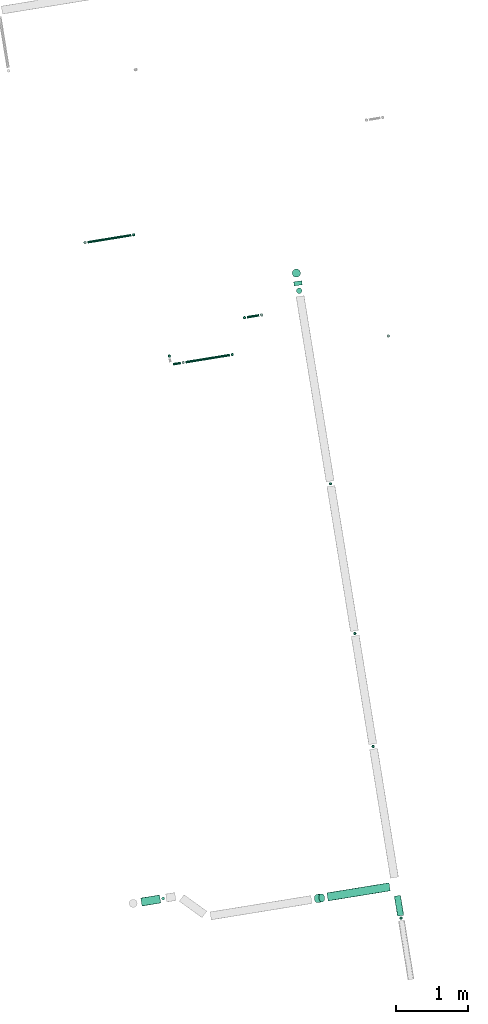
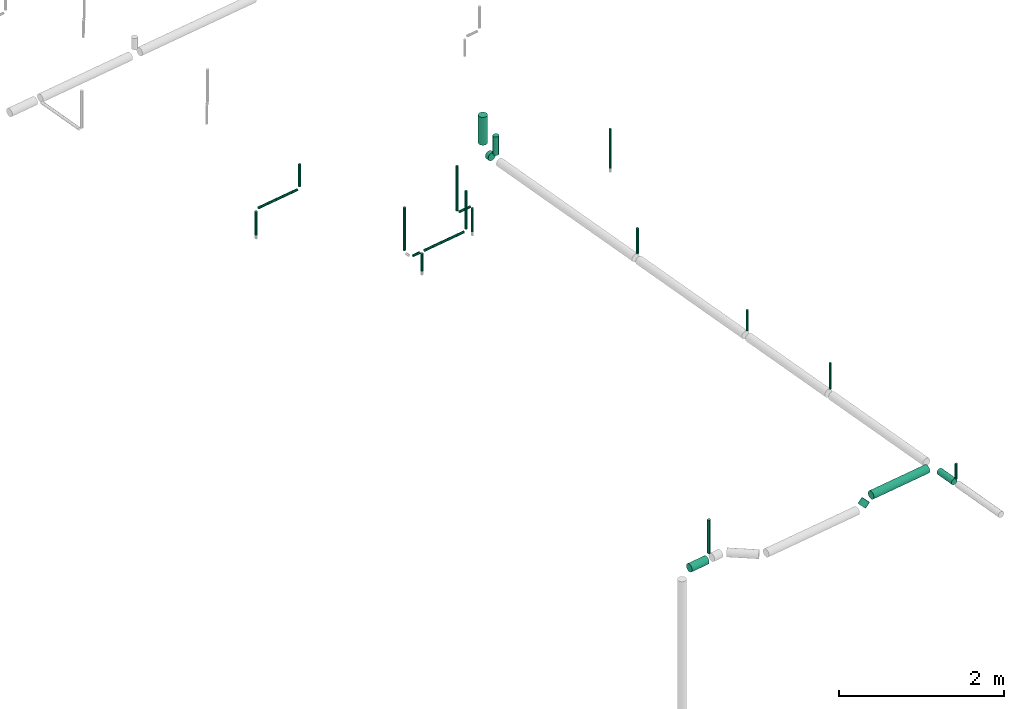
# One storey, part 2 of 8: 24 flow segments.
"""IFC2X3 building model written with IfcOpenShell, lengths in millimetres."""

from ifc_helpers import new_model, entity, si_unit, converted_unit, derived_unit, direction, frame, frame_2d, origin, origin_with_axes, origin_2d_with_axis, place, context, subcontext, project, spatial, circle, extrude, type_object, element, save


model = new_model("IFC2X3")

# Units and contexts
plan_context = context("Plan", 3, precision=1e-05, world=origin_with_axes())
model_context = context("Model", 3, precision=0.01, world=origin(), true_north=direction((6.12323399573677e-17, 1.0)))
body_context = subcontext(model_context, "Body", "Model", "MODEL_VIEW")
ifc_project = project(units=[converted_unit("PLANEANGLEUNIT", "DEGREE", entity("IfcPositiveLengthMeasure", 0.0174532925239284), si_unit("PLANEANGLEUNIT", "RADIAN"), dimensions=[0, 0, 0, 0, 0, 0, 0]), si_unit("AREAUNIT", "SQUARE_METRE"), si_unit("LENGTHUNIT", "METRE", prefix="MILLI"), si_unit("MASSUNIT", "GRAM", prefix="KILO"), si_unit("POWERUNIT", "WATT"), si_unit("PRESSUREUNIT", "PASCAL", prefix="KILO"), si_unit("FORCEUNIT", "NEWTON", prefix="KILO"), si_unit("ELECTRICVOLTAGEUNIT", "VOLT"), si_unit("ELECTRICCURRENTUNIT", "AMPERE"), si_unit("THERMODYNAMICTEMPERATUREUNIT", "DEGREE_CELSIUS"), si_unit("TIMEUNIT", "SECOND"), si_unit("VOLUMEUNIT", "CUBIC_METRE"), derived_unit("LINEARVELOCITYUNIT", [(si_unit("LENGTHUNIT", "METRE"), 1), (si_unit("TIMEUNIT", "SECOND"), -1)]), derived_unit("VOLUMETRICFLOWRATEUNIT", [(si_unit("VOLUMEUNIT", "CUBIC_METRE"), 1), (si_unit("TIMEUNIT", "SECOND"), -1)]), derived_unit("THERMALTRANSMITTANCEUNIT", [(si_unit("POWERUNIT", "WATT"), 1), (si_unit("THERMODYNAMICTEMPERATUREUNIT", "KELVIN"), -1), (si_unit("AREAUNIT", "SQUARE_METRE"), -1)]), derived_unit("SOUNDPRESSUREUNIT", [(si_unit("PRESSUREUNIT", "PASCAL"), 1)])], contexts=[model_context, plan_context])

# Site, building, storey
site_placement = place(None, frame((-0.00071070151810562, 0.00438415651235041, 0.0), z_axis=(0.0, 0.0, 1.0), x_axis=(-0.160236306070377, 0.987078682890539, 0.0)))
site = spatial("IfcSite", under=ifc_project, at=site_placement, Name="Default", CompositionType="ELEMENT")
building_placement = place(site_placement, origin_with_axes())
building = spatial("IfcBuilding", under=site, at=building_placement, CompositionType="ELEMENT")
storey_placement = place(building_placement, frame((0.0, 0.0, 58999.9999999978), z_axis=(0.0, 0.0, 1.0), x_axis=(1.0, 0.0, 0.0)))
storey = spatial("IfcBuildingStorey", under=building, at=storey_placement, Name="Nivå F", CompositionType="ELEMENT", Elevation=58999.9999999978)

# Flow segments
pipe_segment_type = type_object("IfcPipeSegmentType", Name="Pipe Types:Stålrør normaltykke", PredefinedType="NOTDEFINED")
flow_segment_1_placement = place(storey_placement, origin_with_axes())
element("IfcFlowSegment", 1, at=flow_segment_1_placement, inside=storey, type_object=pipe_segment_type, Name="Pipe Types:Stålrør normaltykke", ObjectType="Pipe Types:Stålrør normaltykke", context=body_context, shape_type="SweptSolid", body=[
    extrude(circle(Radius=16.8500004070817, at=origin_2d_with_axis()), frame((771988.479652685, -503050.695967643, 2403.04800000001)), (0.0, 0.0, 1.0), 258.254849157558),
])
flow_segment_2_placement = place(storey_placement, origin_with_axes())
element("IfcFlowSegment", 2, at=flow_segment_2_placement, inside=storey, type_object=pipe_segment_type, Name="Pipe Types:Stålrør normaltykke", ObjectType="Pipe Types:Stålrør normaltykke", context=body_context, shape_type="SweptSolid", body=[
    extrude(circle(Radius=16.8500004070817, at=origin_2d_with_axis()), frame((771897.619644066, -505913.480498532, 2703.04800000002)), (0.0, 0.0, 1.0), 576.151999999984),
])
flow_segment_3_placement = place(storey_placement, origin_with_axes())
element("IfcFlowSegment", 3, at=flow_segment_3_placement, inside=storey, type_object=pipe_segment_type, Name="Pipe Types:Stålrør normaltykke", ObjectType="Pipe Types:Stålrør normaltykke", context=body_context, shape_type="SweptSolid", body=[
    extrude(circle(Radius=57.1500016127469, at=origin_2d_with_axis()), frame((764364.119459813, -504709.248673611, 2880.0), z_axis=(0.0, 1.0, 0.0), x_axis=(-1.0, 0.0, 0.0)), (0.0, 0.0, 1.0), 872.61396846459),
])
flow_segment_4_placement = place(storey_placement, origin_with_axes())
element("IfcFlowSegment", 4, at=flow_segment_4_placement, inside=storey, type_object=pipe_segment_type, Name="Pipe Types:Stålrør normaltykke", ObjectType="Pipe Types:Stålrør normaltykke", context=body_context, shape_type="SweptSolid", body=[
    extrude(circle(Radius=16.8500004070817, at=origin_2d_with_axis()), frame((766319.397290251, -504795.048673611, 2965.8), z_axis=(0.0, 0.0, 1.0), x_axis=(-1.0, 0.0, 0.0)), (0.0, 0.0, 1.0), 380.4),
])
flow_segment_5_placement = place(storey_placement, origin_with_axes())
element("IfcFlowSegment", 5, at=flow_segment_5_placement, inside=storey, type_object=pipe_segment_type, Name="Pipe Types:Stålrør normaltykke", ObjectType="Pipe Types:Stålrør normaltykke", context=body_context, shape_type="SweptSolid", body=[
    extrude(circle(Radius=16.8500004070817, at=origin_2d_with_axis()), frame((763911.598660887, -504795.048673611, 2946.75), z_axis=(0.0, 0.0, 1.0), x_axis=(-1.0, 0.0, 0.0)), (0.0, 0.0, 1.0), 219.449999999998),
])
flow_segment_6_placement = place(storey_placement, origin_with_axes())
element("IfcFlowSegment", 6, at=flow_segment_6_placement, inside=storey, type_object=pipe_segment_type, Name="Pipe Types:Stålrør normaltykke", ObjectType="Pipe Types:Stålrør normaltykke", context=body_context, shape_type="SweptSolid", body=[
    extrude(circle(Radius=44.4500008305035, at=frame_2d((0.0, -8.66293703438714e-12), x_axis=(1.0, 0.0))), frame((763945.398660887, -504795.048673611, 2880.0), z_axis=(1.0, 0.0, 0.0), x_axis=(0.0, 1.0, 0.0)), (0.0, 0.0, 1.0), 278.92079892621),
])
flow_segment_7_placement = place(storey_placement, origin_with_axes())
element("IfcFlowSegment", 7, at=flow_segment_7_placement, inside=storey, type_object=pipe_segment_type, Name="Pipe Types:Stålrør normaltykke", ObjectType="Pipe Types:Stålrør normaltykke", context=body_context, shape_type="SweptSolid", body=[
    extrude(circle(Radius=16.8500004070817, at=origin_2d_with_axis()), frame((770005.62558676, -504795.048673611, 2965.8), z_axis=(0.0, 0.0, 1.0), x_axis=(-1.0, 0.0, 0.0)), (0.0, 0.0, 1.0), 371.019176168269),
])
flow_segment_8_placement = place(storey_placement, origin_with_axes())
element("IfcFlowSegment", 8, at=flow_segment_8_placement, inside=storey, type_object=pipe_segment_type, Name="Pipe Types:Stålrør normaltykke", ObjectType="Pipe Types:Stålrør normaltykke", context=body_context, shape_type="SweptSolid", body=[
    extrude(circle(Radius=16.8500004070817, at=origin_2d_with_axis()), frame((767905.62558676, -504795.048673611, 2965.8), z_axis=(0.0, 0.0, 1.0), x_axis=(-1.0, 0.0, 0.0)), (0.0, 0.0, 1.0), 300.400000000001),
])
flow_segment_9_placement = place(storey_placement, origin_with_axes())
element("IfcFlowSegment", 9, at=flow_segment_9_placement, inside=storey, type_object=pipe_segment_type, Name="Pipe Types:Stålrør normaltykke", ObjectType="Pipe Types:Stålrør normaltykke", context=body_context, shape_type="SweptSolid", body=[
    extrude(circle(Radius=57.1500016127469, at=frame_2d((0.0, -4.28793506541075e-11), x_axis=(1.0, 0.0))), frame((764364.119459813, -503755.741689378, 2846.49301576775), z_axis=(0.0, 0.707106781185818, -0.707106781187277), x_axis=(-1.0, 0.0, 0.0)), (0.0, 0.0, 1.0), 89.0757000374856),
])
flow_segment_10_placement = place(storey_placement, origin_with_axes())
element("IfcFlowSegment", 10, at=flow_segment_10_placement, inside=storey, type_object=pipe_segment_type, Name="Pipe Types:Stålrør normaltykke", ObjectType="Pipe Types:Stålrør normaltykke", context=body_context, shape_type="SweptSolid", body=[
    extrude(circle(Radius=21.2000007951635, at=frame_2d((0.0, -6.93034962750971e-11), x_axis=(1.0, 0.0))), frame((764707.011605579, -501587.136418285, 2835.8), z_axis=(0.0, 0.0, 1.0), x_axis=(-1.0, 0.0, 0.0)), (0.0, 0.0, 1.0), 492.400000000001),
])
flow_segment_11_placement = place(storey_placement, origin_with_axes())
element("IfcFlowSegment", 11, at=flow_segment_11_placement, inside=storey, type_object=pipe_segment_type, Name="Pipe Types:Stålrør normaltykke", ObjectType="Pipe Types:Stålrør normaltykke", context=body_context, shape_type="SweptSolid", body=[
    extrude(circle(Radius=57.1500016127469, at=origin_2d_with_axis()), frame((764707.011605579, -501544.736418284, 2750.0), z_axis=(0.0, 1.0, 0.0), x_axis=(-1.0, 0.0, 0.0)), (0.0, 0.0, 1.0), 264.417618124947),
])
flow_segment_12_placement = place(storey_placement, origin_with_axes())
element("IfcFlowSegment", 12, at=flow_segment_12_placement, inside=storey, type_object=pipe_segment_type, Name="Pipe Types:Stålrør normaltykke", ObjectType="Pipe Types:Stålrør normaltykke", context=body_context, shape_type="SweptSolid", body=[
    extrude(circle(Radius=16.8500004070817, at=origin_2d_with_axis()), frame((772466.897012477, -504227.133203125, 2203.048)), (0.0, 0.0, 1.0), 345.905335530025),
])
flow_segment_13_placement = place(storey_placement, origin_with_axes())
element("IfcFlowSegment", 13, at=flow_segment_13_placement, inside=storey, type_object=pipe_segment_type, Name="Pipe Types:Stålrør normaltykke", ObjectType="Pipe Types:Stålrør normaltykke", context=body_context, shape_type="SweptSolid", body=[
    extrude(circle(Radius=57.1500016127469, at=origin_2d_with_axis()), frame((772789.456008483, -504795.048673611, 2880.0), z_axis=(1.0, 0.0, 0.0), x_axis=(0.0, -1.0, 0.0)), (0.0, 0.0, 1.0), 57.0636355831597),
])
flow_segment_14_placement = place(storey_placement, origin_with_axes())
element("IfcFlowSegment", 14, at=flow_segment_14_placement, inside=storey, type_object=pipe_segment_type, Name="Pipe Types:Stålrør normaltykke", ObjectType="Pipe Types:Stålrør normaltykke", context=body_context, shape_type="SweptSolid", body=[
    extrude(circle(Radius=57.1500016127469, at=frame_2d((0.0, 6.93034962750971e-11), x_axis=(1.0, 0.0))), frame((772960.919644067, -504795.048673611, 2994.4), z_axis=(0.0, 0.0, 1.0), x_axis=(-1.0, 0.0, 0.0)), (0.0, 0.0, 1.0), 411.200000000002),
])
flow_segment_15_placement = place(storey_placement, origin_with_axes())
element("IfcFlowSegment", 15, at=flow_segment_15_placement, inside=storey, type_object=pipe_segment_type, Name="Pipe Types:Stålrør normaltykke", ObjectType="Pipe Types:Stålrør normaltykke", context=body_context, shape_type="SweptSolid", body=[
    extrude(circle(Radius=38.0499992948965, at=frame_2d((0.0, 6.93034962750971e-11), x_axis=(1.0, 0.0))), frame((772713.256008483, -504795.048673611, 2965.8), z_axis=(0.0, 0.0, 1.0), x_axis=(-1.0, 0.0, 0.0)), (0.0, 0.0, 1.0), 270.999999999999),
])
flow_segment_16_placement = place(storey_placement, origin_with_axes())
element("IfcFlowSegment", 16, at=flow_segment_16_placement, inside=storey, type_object=pipe_segment_type, Name="Pipe Types:Stålrør normaltykke", ObjectType="Pipe Types:Stålrør normaltykke", context=body_context, shape_type="SweptSolid", body=[
    extrude(circle(Radius=16.8500004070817, at=origin_2d_with_axis()), frame((772108.479652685, -502874.909814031, 2720.50000000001)), (0.0, 0.0, 1.0), 632.547999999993),
])
flow_segment_17_placement = place(storey_placement, origin_with_axes())
element("IfcFlowSegment", 17, at=flow_segment_17_placement, inside=storey, type_object=pipe_segment_type, Name="Pipe Types:Stålrør normaltykke", ObjectType="Pipe Types:Stålrør normaltykke", context=body_context, shape_type="SweptSolid", body=[
    extrude(circle(Radius=16.8500004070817, at=origin_2d_with_axis()), frame((773845.62558676, -502656.230498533, 2816.84800000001)), (0.0, 0.0, 1.0), 329.351999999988),
])
flow_segment_18_placement = place(storey_placement, origin_with_axes())
element("IfcFlowSegment", 18, at=flow_segment_18_placement, inside=storey, type_object=pipe_segment_type, Name="Pipe Types:Stålrør normaltykke", ObjectType="Pipe Types:Stålrør normaltykke", context=body_context, shape_type="SweptSolid", body=[
    extrude(circle(Radius=16.8500004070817, at=origin_2d_with_axis()), frame((773845.62558676, -501976.230498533, 2403.04800000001), z_axis=(0.0, 0.0, 1.0), x_axis=(-1.0, 0.0, 0.0)), (0.0, 0.0, 1.0), 346.199999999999),
])
flow_segment_19_placement = place(storey_placement, origin_with_axes())
element("IfcFlowSegment", 19, at=flow_segment_19_placement, inside=storey, type_object=pipe_segment_type, Name="Pipe Types:Stålrør normaltykke", ObjectType="Pipe Types:Stålrør normaltykke", context=body_context, shape_type="SweptSolid", body=[
    extrude(circle(Radius=16.8500004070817, at=origin_2d_with_axis()), frame((773845.62558676, -502622.430498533, 2783.04800000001), z_axis=(0.0, 1.0, 0.0), x_axis=(1.0, 0.0, 0.0)), (0.0, 0.0, 1.0), 612.399999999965),
])
flow_segment_20_placement = place(storey_placement, origin_with_axes())
element("IfcFlowSegment", 20, at=flow_segment_20_placement, inside=storey, type_object=pipe_segment_type, Name="Pipe Types:Stålrør normaltykke", ObjectType="Pipe Types:Stålrør normaltykke", context=body_context, shape_type="SweptSolid", body=[
    extrude(circle(Radius=16.8500004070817, at=origin_2d_with_axis()), frame((772466.897012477, -503988.333203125, 2616.55333553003)), (0.0, 0.0, 1.0), 662.646664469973),
])
flow_segment_21_placement = place(storey_placement, origin_with_axes())
element("IfcFlowSegment", 21, at=flow_segment_21_placement, inside=storey, type_object=pipe_segment_type, Name="Pipe Types:Stålrør normaltykke", ObjectType="Pipe Types:Stålrør normaltykke", context=body_context, shape_type="SweptSolid", body=[
    extrude(circle(Radius=16.8500004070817, at=origin_2d_with_axis()), frame((772466.897012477, -504193.333203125, 2582.75333553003), z_axis=(0.0, 1.0, 0.0), x_axis=(1.0, 0.0, 0.0)), (0.0, 0.0, 1.0), 171.199999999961),
])
flow_segment_22_placement = place(storey_placement, origin_with_axes())
element("IfcFlowSegment", 22, at=flow_segment_22_placement, inside=storey, type_object=pipe_segment_type, Name="Pipe Types:Stålrør normaltykke", ObjectType="Pipe Types:Stålrør normaltykke", context=body_context, shape_type="SweptSolid", body=[
    extrude(circle(Radius=16.8500004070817, at=origin_2d_with_axis()), frame((771988.479652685, -503703.980498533, 2686.65284915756), z_axis=(0.0, 1.0, 0.0), x_axis=(-1.0, 0.0, 0.0)), (0.0, 0.0, 1.0), 619.484530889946),
])
flow_segment_23_placement = place(storey_placement, origin_with_axes())
element("IfcFlowSegment", 23, at=flow_segment_23_placement, inside=storey, type_object=pipe_segment_type, Name="Pipe Types:Stålrør normaltykke", ObjectType="Pipe Types:Stålrør normaltykke", context=body_context, shape_type="SweptSolid", body=[
    extrude(circle(Radius=16.8500004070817, at=origin_2d_with_axis()), frame((771988.479652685, -503737.780498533, 2720.45284915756), z_axis=(0.0, 0.0, 1.0), x_axis=(-1.0, 0.0, 0.0)), (0.0, 0.0, 1.0), 558.747150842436),
])
flow_segment_24_placement = place(storey_placement, origin_with_axes())
element("IfcFlowSegment", 24, at=flow_segment_24_placement, inside=storey, type_object=pipe_segment_type, Name="Pipe Types:Stålrør normaltykke", ObjectType="Pipe Types:Stålrør normaltykke", context=body_context, shape_type="SweptSolid", body=[
    extrude(circle(Radius=16.8500004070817, at=frame_2d((0.0, -8.66293703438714e-12), x_axis=(1.0, 0.0))), frame((771988.479652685, -503016.895967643, 2686.65284915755), z_axis=(0.0, 1.0, 0.0), x_axis=(1.0, 0.0, 0.0)), (0.0, 0.0, 1.0), 108.18615361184),
])

save(model, "model.ifc")
